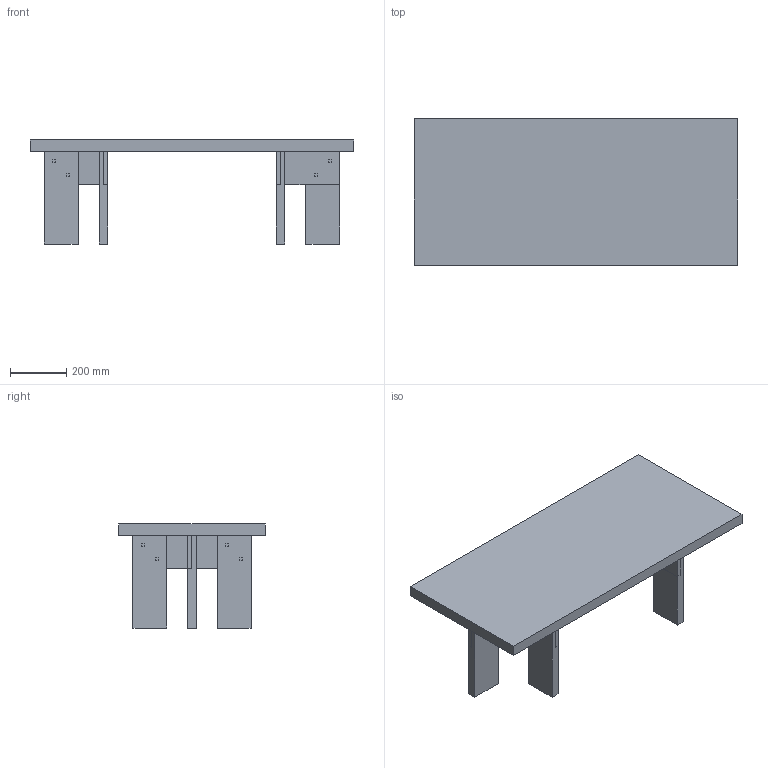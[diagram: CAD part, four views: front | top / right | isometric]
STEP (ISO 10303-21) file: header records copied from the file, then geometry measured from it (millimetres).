
FILE_DESCRIPTION(/* description */ (''),/* implementation_level */ '2;1');
FILE_NAME(/* name */ 'Farmhouse rectangular coffee table assembly',/* time_stamp */ '2023-03-02T16:36:29+01:00',/* author */ (''),/* organization */ (''),/* preprocessor_version */ 'ST-DEVELOPER v16.5',/* originating_system */ '',/* authorisation */ '');
FILE_SCHEMA (('CONFIG_CONTROL_DESIGN'));
Length unit declared in the file: millimetre
Products named in the file (11): Document; Farmhouse rectangular coffee table assembly v1; Farmhouse Rectangular Coffee table metal plate v1; Farmhouse rectangular coffee table top v1; Farmhouse Rectangular Coffee Table Horizontal leg v1; Farmhouse Rectangular Coffee table vertical Leg v1; Farmhouse Rectangular Coffee Table horizontal leg 2 v1; Square dowel v1; Framhouse Dowel v1; Threaded insert v1; Farmhouse m6 trestle bolt v1
Assembly tree (34 placements, depth 3):
  Document
    Farmhouse rectangular coffee table assembly v1
      Farmhouse Rectangular Coffee table metal plate v1  x2
      Farmhouse rectangular coffee table top v1
      Farmhouse Rectangular Coffee Table Horizontal leg v1  x2
      Farmhouse Rectangular Coffee table vertical Leg v1  x6
      Farmhouse Rectangular Coffee Table horizontal leg 2 v1  x2
      Square dowel v1  x12
      Framhouse Dowel v1  x4
      Threaded insert v1  x2
      Farmhouse m6 trestle bolt v1  x2
Bounding box: 1150 x 520 x 370 mm (x, y, z)
Volume: 32891575.6 mm3; surface area: 2428466.9 mm2
Topology: 33 solids, 33 shells, 1670 faces, 4704 edges, 3126 vertices
Faces by surface type: bspline 1670
Entity records: 61540 total; most frequent: CARTESIAN_POINT 38361, B_SPLINE_CURVE_WITH_KNOTS 4570, ORIENTED_EDGE 3508, PCURVE 3508, DEFINITIONAL_REPRESENTATION 3508, SURFACE_CURVE 1754, EDGE_CURVE 1754, VERTEX_POINT 1163
